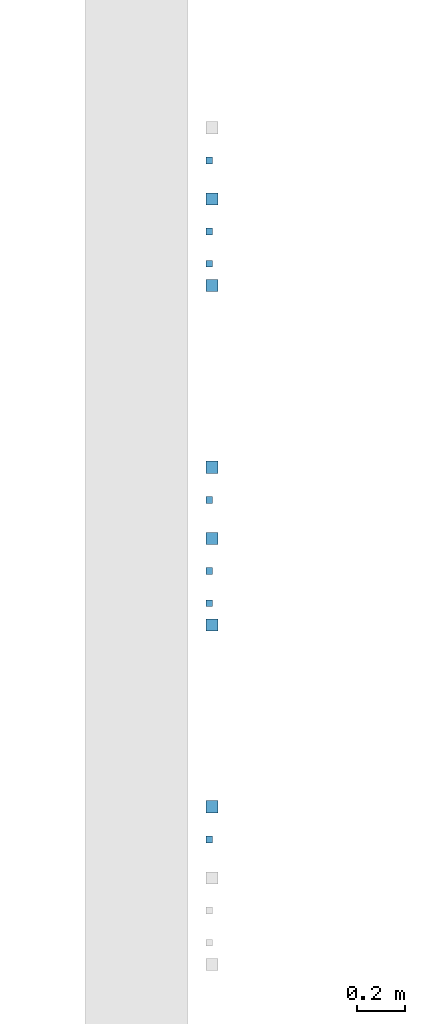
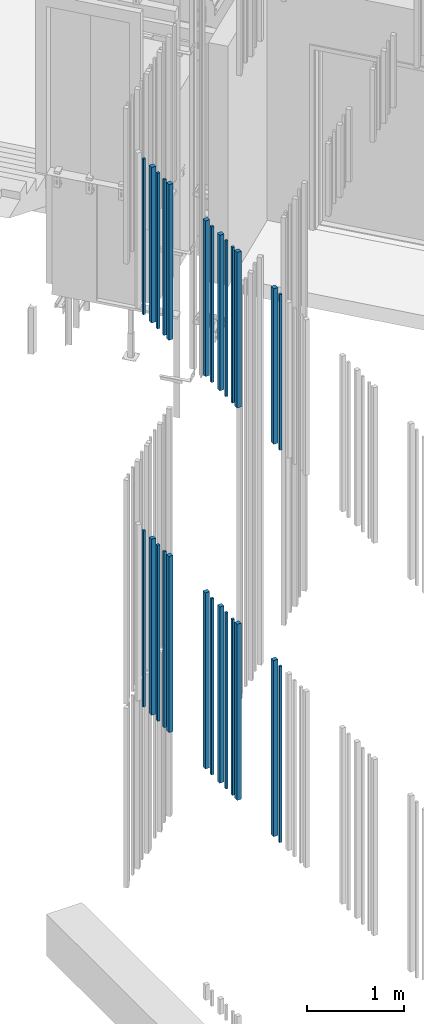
# One storey, part 27 of 124: 26 walls.
"""IFC2X3 building model written with IfcOpenShell, lengths in millimetres."""

from ifc_helpers import new_model, entity, si_unit, converted_unit, derived_unit, money_unit, direction, frame, origin_with_axes, place, context, subcontext, project, spatial, faceted_brep, material, type_object, element, save


model = new_model("IFC2X3")

# Units and contexts
model_context = context("Model", 3, precision=1e-05, world=origin_with_axes(), true_north=direction((0.0, 1.0)))
body_context = subcontext(model_context, "Body", "Model", "MODEL_VIEW")
ifc_project = project(units=[si_unit("LENGTHUNIT", "METRE", prefix="MILLI"), si_unit("AREAUNIT", "SQUARE_METRE"), si_unit("VOLUMEUNIT", "CUBIC_METRE"), converted_unit("PLANEANGLEUNIT", "DEGREE", entity("IfcPlaneAngleMeasure", 0.0174532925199), si_unit("PLANEANGLEUNIT", "RADIAN"), dimensions=[0, 0, 0, 0, 0, 0, 0]), si_unit("SOLIDANGLEUNIT", "STERADIAN"), money_unit("EUR"), converted_unit("TIMEUNIT", "Year", entity("IfcTimeMeasure", 31556926.0), si_unit("TIMEUNIT", "SECOND"), dimensions=[0, 0, 1, 0, 0, 0, 0]), si_unit("MASSUNIT", "GRAM", prefix="KILO"), si_unit("THERMODYNAMICTEMPERATUREUNIT", "DEGREE_CELSIUS"), si_unit("LUMINOUSINTENSITYUNIT", "LUMEN"), si_unit("ENERGYUNIT", "JOULE", prefix="MEGA"), derived_unit("THERMALCONDUCTANCEUNIT", [(si_unit("POWERUNIT", "WATT"), 1), (si_unit("LENGTHUNIT", "METRE"), -1), (si_unit("THERMODYNAMICTEMPERATUREUNIT", "KELVIN"), -1)]), derived_unit("SPECIFICHEATCAPACITYUNIT", [(si_unit("ENERGYUNIT", "JOULE"), 1), (si_unit("MASSUNIT", "GRAM", prefix="KILO"), -1), (si_unit("THERMODYNAMICTEMPERATUREUNIT", "KELVIN"), -1)]), derived_unit("MASSDENSITYUNIT", [(si_unit("MASSUNIT", "GRAM", prefix="KILO"), 1), (si_unit("VOLUMEUNIT", "CUBIC_METRE"), -1)])], contexts=[model_context])

# Site, building, storey
site_placement = place(None, origin_with_axes())
site = spatial("IfcSite", under=ifc_project, at=site_placement, Name="Site", CompositionType="ELEMENT")
building_placement = place(site_placement, origin_with_axes())
building = spatial("IfcBuilding", under=site, at=building_placement, Name="Building", CompositionType="ELEMENT")
storey_placement = place(building_placement, frame((0.0, 0.0, -1615.0), z_axis=(0.0, 0.0, 1.0), x_axis=(1.0, 0.0, 0.0)))
storey = spatial("IfcBuildingStorey", under=building, at=storey_placement, Name="0  korrus", CompositionType="ELEMENT", Elevation=-1615.0)

# Walls
ifc_material = material(Name="Site specified")
wall_type = type_object("IfcWallType", Name="Puitfassaadi ribistik", PredefinedType="NOTDEFINED")
for number, where, z_axis, x_axis, name in (
    (1, (139801.000002, 64139.9793129, 9530.0), (0.0, 0.0, 1.0), (5.16795808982e-08, -1.0, 0.0), "Site specified"),
    (2, (139801.000024, 63713.9793426, 9530.0), (0.0, 0.0, 1.0), (5.16795808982e-08, -1.0, 0.0), "Site specified"),
    (3, (139801.000017, 63846.9793417, 9530.0), (0.0, 0.0, 1.0), (5.16795808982e-08, -1.0, 0.0), "Site specified"),
):
    element("IfcWall", number, at=place(storey_placement, frame(where, z_axis=z_axis, x_axis=x_axis)), inside=storey, type_object=wall_type, material=ifc_material, Name=name, context=body_context, shape_type="Brep", body=[
        faceted_brep([(14.0, 14.0, 1950.0), (14.0, 14.0, 0.0), (-14.0, 14.0, 0.0), (-14.0, 14.0, 1950.0), (14.0, -14.0, 1950.0), (14.0, -14.0, 0.0), (-14.0, -14.0, 0.0), (-14.0, -14.0, 1950.0)], [[[0, 1, 2, 3]], [[4, 5, 1, 0]], [[2, 1, 5, 6]], [[3, 2, 6, 7]], [[4, 0, 3, 7]], [[7, 6, 5, 4]]]),
    ])
for number, where, z_axis, x_axis, name in (
    (4, (139812.000028, 63624.9761727, 9530.0), (0.0, 0.0, 1.0), (5.16795808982e-08, -1.0, 0.0), "Site specified"),
    (5, (139812.00001, 63980.9818061, 9530.0), (0.0, 0.0, 1.0), (5.16795808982e-08, -1.0, 0.0), "Site specified"),
):
    element("IfcWall", number, at=place(storey_placement, frame(where, z_axis=z_axis, x_axis=x_axis)), inside=storey, type_object=wall_type, material=ifc_material, Name=name, context=body_context, shape_type="Brep", body=[
        faceted_brep([(25.0, 25.0, 1950.0), (25.0, 25.0, 0.0), (-25.0, 25.0, 0.0), (-25.0, 25.0, 1950.0), (25.0, -25.0, 1950.0), (25.0, -25.0, 0.0), (-25.0, -25.0, 0.0), (-25.0, -25.0, 1950.0)], [[[0, 1, 2, 3]], [[4, 5, 1, 0]], [[2, 1, 5, 6]], [[3, 2, 6, 7]], [[4, 0, 3, 7]], [[7, 6, 5, 4]]]),
    ])
for number, where, z_axis, x_axis, name in (
    (6, (139812.000028, 63624.9761727, 4615.0), (0.0, 0.0, 1.0), (5.16795808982e-08, -1.0, 0.0), "Site specified"),
    (7, (139812.00001, 63980.9818061, 4615.0), (0.0, 0.0, 1.0), (5.16795808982e-08, -1.0, 0.0), "Site specified"),
):
    element("IfcWall", number, at=place(storey_placement, frame(where, z_axis=z_axis, x_axis=x_axis)), inside=storey, type_object=wall_type, material=ifc_material, Name=name, context=body_context, shape_type="Brep", body=[
        faceted_brep([(25.0, 25.0, 2206.0), (25.0, 25.0, 0.0), (-25.0, 25.0, 0.0), (-25.0, 25.0, 2206.0), (25.0, -25.0, 2206.0), (25.0, -25.0, 0.0), (-25.0, -25.0, 0.0), (-25.0, -25.0, 2206.0)], [[[0, 1, 2, 3]], [[4, 5, 1, 0]], [[2, 1, 5, 6]], [[3, 2, 6, 7]], [[4, 0, 3, 7]], [[7, 6, 5, 4]]]),
    ])
wall_1_placement = place(storey_placement, frame((139811.999995, 64274.9818039, 9530.0), z_axis=(0.0, 0.0, 1.0), x_axis=(5.16795808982e-08, -1.0, 0.0)))
element("IfcWall", 8, at=wall_1_placement, inside=storey, type_object=wall_type, material=ifc_material, Name="Site specified", context=body_context, shape_type="Brep", body=[
    faceted_brep([(25.0, 25.0, 1950.0), (25.0, 25.0, 0.0), (-25.0, 25.0, 0.0), (-25.0, 25.0, 1950.0), (25.0, -25.0, 1950.0), (25.0, -25.0, 0.0), (-25.0, -25.0, 0.0), (-25.0, -25.0, 1950.0)], [[[0, 1, 2, 3]], [[4, 5, 1, 0]], [[2, 1, 5, 6]], [[3, 2, 6, 7]], [[4, 0, 3, 7]], [[7, 6, 5, 4]]]),
])
wall_2_placement = place(storey_placement, frame((139811.999995, 64274.9818039, 4615.0), z_axis=(0.0, 0.0, 1.0), x_axis=(5.16795808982e-08, -1.0, 0.0)))
element("IfcWall", 9, at=wall_2_placement, inside=storey, type_object=wall_type, material=ifc_material, Name="Site specified", context=body_context, shape_type="Brep", body=[
    faceted_brep([(25.0, 25.0, 2206.0), (25.0, 25.0, 0.0), (-25.0, 25.0, 0.0), (-25.0, 25.0, 2206.0), (25.0, -25.0, 2206.0), (25.0, -25.0, 0.0), (-25.0, -25.0, 0.0), (-25.0, -25.0, 2206.0)], [[[0, 1, 2, 3]], [[4, 5, 1, 0]], [[2, 1, 5, 6]], [[3, 2, 6, 7]], [[4, 0, 3, 7]], [[7, 6, 5, 4]]]),
])
for number, where, z_axis, x_axis, name in (
    (10, (139801.000002, 64139.9793129, 4615.0), (0.0, 0.0, 1.0), (5.16795808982e-08, -1.0, 0.0), "Site specified"),
    (11, (139801.000017, 63846.9793417, 4615.0), (0.0, 0.0, 1.0), (5.16795808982e-08, -1.0, 0.0), "Site specified"),
    (12, (139801.000024, 63713.9793426, 4615.0), (0.0, 0.0, 1.0), (5.16795808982e-08, -1.0, 0.0), "Site specified"),
    (13, (139801.000002, 65539.9793129, 4615.0), (0.0, 0.0, 1.0), (5.16795808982e-08, -1.0, 0.0), "Site specified"),
    (14, (139801.000024, 65113.9793426, 4615.0), (0.0, 0.0, 1.0), (5.16795808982e-08, -1.0, 0.0), "Site specified"),
    (15, (139801.000017, 65246.9793417, 4615.0), (0.0, 0.0, 1.0), (5.16795808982e-08, -1.0, 0.0), "Site specified"),
):
    element("IfcWall", number, at=place(storey_placement, frame(where, z_axis=z_axis, x_axis=x_axis)), inside=storey, type_object=wall_type, material=ifc_material, Name=name, context=body_context, shape_type="Brep", body=[
        faceted_brep([(14.0, 14.0, 2206.0), (14.0, 14.0, 0.0), (-14.0, 14.0, 0.0), (-14.0, 14.0, 2206.0), (14.0, -14.0, 2206.0), (14.0, -14.0, 0.0), (-14.0, -14.0, 0.0), (-14.0, -14.0, 2206.0)], [[[0, 1, 2, 3]], [[4, 5, 1, 0]], [[2, 1, 5, 6]], [[3, 2, 6, 7]], [[4, 0, 3, 7]], [[7, 6, 5, 4]]]),
    ])
for number, where, z_axis, x_axis, name in (
    (16, (139812.000028, 65024.9761727, 4615.0), (0.0, 0.0, 1.0), (5.16795808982e-08, -1.0, 0.0), "Site specified"),
    (17, (139812.00001, 65380.9818061, 4615.0), (0.0, 0.0, 1.0), (5.16795808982e-08, -1.0, 0.0), "Site specified"),
):
    element("IfcWall", number, at=place(storey_placement, frame(where, z_axis=z_axis, x_axis=x_axis)), inside=storey, type_object=wall_type, material=ifc_material, Name=name, context=body_context, shape_type="Brep", body=[
        faceted_brep([(25.0, 25.0, 2206.0), (25.0, 25.0, 0.0), (-25.0, 25.0, 0.0), (-25.0, 25.0, 2206.0), (25.0, -25.0, 2206.0), (25.0, -25.0, 0.0), (-25.0, -25.0, 0.0), (-25.0, -25.0, 2206.0)], [[[0, 1, 2, 3]], [[4, 5, 1, 0]], [[2, 1, 5, 6]], [[3, 2, 6, 7]], [[4, 0, 3, 7]], [[7, 6, 5, 4]]]),
    ])
for number, where, z_axis, x_axis, name in (
    (18, (139801.000002, 65539.9793129, 9530.0), (0.0, 0.0, 1.0), (5.16795808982e-08, -1.0, 0.0), "Site specified"),
    (19, (139801.000024, 65113.9793426, 9530.0), (0.0, 0.0, 1.0), (5.16795808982e-08, -1.0, 0.0), "Site specified"),
    (20, (139801.000017, 65246.9793417, 9530.0), (0.0, 0.0, 1.0), (5.16795808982e-08, -1.0, 0.0), "Site specified"),
):
    element("IfcWall", number, at=place(storey_placement, frame(where, z_axis=z_axis, x_axis=x_axis)), inside=storey, type_object=wall_type, material=ifc_material, Name=name, context=body_context, shape_type="Brep", body=[
        faceted_brep([(14.0, 14.0, 1950.0), (14.0, 14.0, 0.0), (-14.0, 14.0, 0.0), (-14.0, 14.0, 1950.0), (14.0, -14.0, 1950.0), (14.0, -14.0, 0.0), (-14.0, -14.0, 0.0), (-14.0, -14.0, 1950.0)], [[[0, 1, 2, 3]], [[4, 5, 1, 0]], [[2, 1, 5, 6]], [[3, 2, 6, 7]], [[4, 0, 3, 7]], [[7, 6, 5, 4]]]),
    ])
for number, where, z_axis, x_axis, name in (
    (21, (139812.000028, 65024.9761727, 9530.0), (0.0, 0.0, 1.0), (5.16795808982e-08, -1.0, 0.0), "Site specified"),
    (22, (139812.00001, 65380.9818061, 9530.0), (0.0, 0.0, 1.0), (5.16795808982e-08, -1.0, 0.0), "Site specified"),
):
    element("IfcWall", number, at=place(storey_placement, frame(where, z_axis=z_axis, x_axis=x_axis)), inside=storey, type_object=wall_type, material=ifc_material, Name=name, context=body_context, shape_type="Brep", body=[
        faceted_brep([(25.0, 25.0, 1950.0), (25.0, 25.0, 0.0), (-25.0, 25.0, 0.0), (-25.0, 25.0, 1950.0), (25.0, -25.0, 1950.0), (25.0, -25.0, 0.0), (-25.0, -25.0, 0.0), (-25.0, -25.0, 1950.0)], [[[0, 1, 2, 3]], [[4, 5, 1, 0]], [[2, 1, 5, 6]], [[3, 2, 6, 7]], [[4, 0, 3, 7]], [[7, 6, 5, 4]]]),
    ])
wall_3_placement = place(storey_placement, frame((139811.999995, 62874.9818039, 4615.0), z_axis=(0.0, 0.0, 1.0), x_axis=(5.16795808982e-08, -1.0, 0.0)))
element("IfcWall", 23, at=wall_3_placement, inside=storey, type_object=wall_type, material=ifc_material, Name="Site specified", context=body_context, shape_type="Brep", body=[
    faceted_brep([(25.0, 25.0, 2206.0), (25.0, 25.0, 0.0), (-25.0, 25.0, 0.0), (-25.0, 25.0, 2206.0), (25.0, -25.0, 2206.0), (25.0, -25.0, 0.0), (-25.0, -25.0, 0.0), (-25.0, -25.0, 2206.0)], [[[0, 1, 2, 3]], [[4, 5, 1, 0]], [[2, 1, 5, 6]], [[3, 2, 6, 7]], [[4, 0, 3, 7]], [[7, 6, 5, 4]]]),
])
wall_4_placement = place(storey_placement, frame((139801.000002, 62739.9793129, 4615.0), z_axis=(0.0, 0.0, 1.0), x_axis=(5.16795808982e-08, -1.0, 0.0)))
element("IfcWall", 24, at=wall_4_placement, inside=storey, type_object=wall_type, material=ifc_material, Name="Site specified", context=body_context, shape_type="Brep", body=[
    faceted_brep([(14.0, 14.0, 2206.0), (14.0, 14.0, 0.0), (-14.0, 14.0, 0.0), (-14.0, 14.0, 2206.0), (14.0, -14.0, 2206.0), (14.0, -14.0, 0.0), (-14.0, -14.0, 0.0), (-14.0, -14.0, 2206.0)], [[[0, 1, 2, 3]], [[4, 5, 1, 0]], [[2, 1, 5, 6]], [[3, 2, 6, 7]], [[4, 0, 3, 7]], [[7, 6, 5, 4]]]),
])
wall_5_placement = place(storey_placement, frame((139811.999995, 62874.9818039, 9530.0), z_axis=(0.0, 0.0, 1.0), x_axis=(5.16795808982e-08, -1.0, 0.0)))
element("IfcWall", 25, at=wall_5_placement, inside=storey, type_object=wall_type, material=ifc_material, Name="Site specified", context=body_context, shape_type="Brep", body=[
    faceted_brep([(25.0, 25.0, 1950.0), (25.0, 25.0, 0.0), (-25.0, 25.0, 0.0), (-25.0, 25.0, 1950.0), (25.0, -25.0, 1950.0), (25.0, -25.0, 0.0), (-25.0, -25.0, 0.0), (-25.0, -25.0, 1950.0)], [[[0, 1, 2, 3]], [[4, 5, 1, 0]], [[2, 1, 5, 6]], [[3, 2, 6, 7]], [[4, 0, 3, 7]], [[7, 6, 5, 4]]]),
])
wall_6_placement = place(storey_placement, frame((139801.000002, 62739.9793129, 9530.0), z_axis=(0.0, 0.0, 1.0), x_axis=(5.16795808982e-08, -1.0, 0.0)))
element("IfcWall", 26, at=wall_6_placement, inside=storey, type_object=wall_type, material=ifc_material, Name="Site specified", context=body_context, shape_type="Brep", body=[
    faceted_brep([(14.0, 14.0, 1950.0), (14.0, 14.0, 0.0), (-14.0, 14.0, 0.0), (-14.0, 14.0, 1950.0), (14.0, -14.0, 1950.0), (14.0, -14.0, 0.0), (-14.0, -14.0, 0.0), (-14.0, -14.0, 1950.0)], [[[0, 1, 2, 3]], [[4, 5, 1, 0]], [[2, 1, 5, 6]], [[3, 2, 6, 7]], [[4, 0, 3, 7]], [[7, 6, 5, 4]]]),
])

save(model, "model.ifc")
